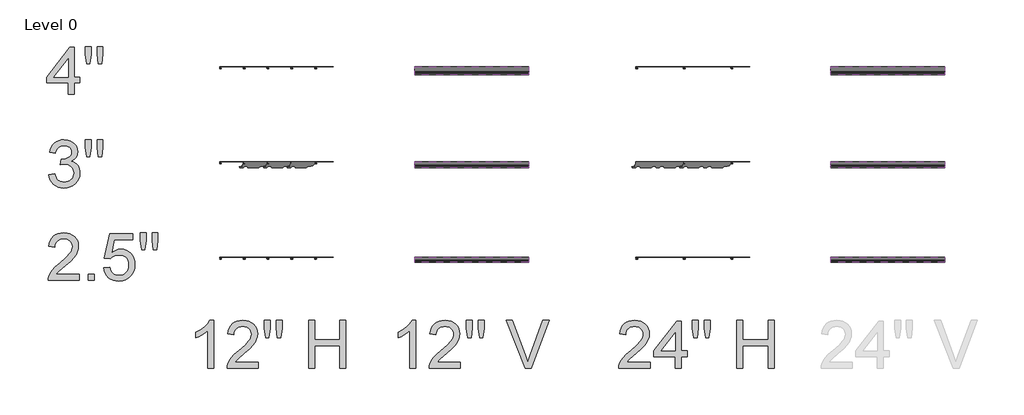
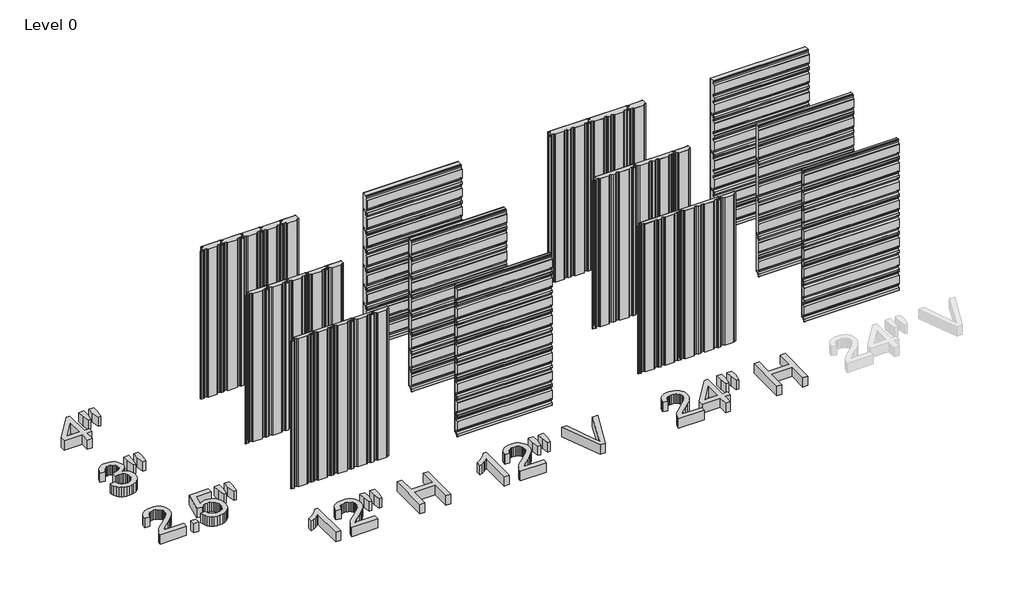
# One storey, part 1 of 3: 60 plates, 6 proxies.
"""IFC4 building model written with IfcOpenShell, lengths in millimetres."""

from ifc_helpers import new_model, si_unit, origin, origin_with_axes, place, context, project, spatial, polyline, outline, extrude, transform, mapped, element, save
from components import plate_6d7c6e6a, plate_768e84e4, plate_447e906d, plate_7d3e74aa, plate_3614d6f1, plate_1bb9bb0e, plate_06e6776e, plate_f417a01e, plate_84ef4001, plate_ea53c9ee, plate_51ea42c3, plate_45a50fa3, plate_872a44c1, plate_7790d1d9, plate_56a13f22, plate_ee4c8fe3, plate_3b90a758, plate_3c7ca039, plate_906cce98, plate_a2a39dc9, plate_817032a2

model = new_model("IFC4")

# Units and contexts
model_context = context("Model", 3, world=origin())
ifc_project = project(units=[si_unit("LENGTHUNIT", "METRE", prefix="MILLI")], contexts=[model_context])

# Site, building, storey
site = spatial("IfcSite", under=ifc_project)
building = spatial("IfcBuilding", under=site)
storey = spatial("IfcBuildingStorey", under=building, Name="Level 0", Elevation=0.0)

# Proxies
placement = place(None, origin())
element("IfcBuildingElementProxy", 1, Name="24\" Arial", ObjectType="24\" Arial", at=placement, inside=storey, context=model_context, shape_type="SweptSolid", body=[
    extrude(outline(polyline([(-32312.5108068, 10607.9692936), (-32312.5108068, 10531.8275201), (-32712.2551178, 10531.8275201), (-32710.5820807, 10558.633291), (-32704.0758257, 10584.3237038), (-32685.3006325, 10625.3502893), (-32657.8256469, 10665.149981), (-32618.0817231, 10706.8086027), (-32562.4997156, 10753.4119782), (-32480.3350088, 10826.3935707), (-32431.0361847, 10880.2653626), (-32416.657361, 10902.275094), (-32406.3867727, 10923.9873966), (-32400.2244197, 10945.4022704), (-32398.170302, 10966.5197154), (-32400.1082366, 10986.38703), (-32405.9220402, 11004.6463701), (-32415.6117129, 11021.2977357), (-32429.1772547, 11036.3411269), (-32445.8657989, 11048.8006053), (-32464.9244789, 11057.7002328), (-32486.3532947, 11063.0400093), (-32510.1522463, 11064.8199347), (-32535.2245649, 11063.0818352), (-32557.6479082, 11057.8675365), (-32577.4222763, 11049.1770386), (-32594.5476691, 11037.0103417), (-32608.401345, 11021.7764102), (-32618.3605626, 11003.8842088), (-32624.4253218, 10983.3337374), (-32626.5956226, 10960.1249962), (-32702.7373961, 10969.6427178), (-32696.1893151, 11008.9497931), (-32684.278221, 11043.2935251), (-32667.0041138, 11072.6739141), (-32644.3669935, 11097.0909598), (-32616.8873605, 11116.2844123), (-32585.0857153, 11129.9940212), (-32548.9620577, 11138.2197865), (-32508.5163878, 11140.9617083), (-32467.7082266, 11137.913063), (-32431.3893814, 11128.7671273), (-32399.5598522, 11113.5239012), (-32372.219639, 11092.1833846), (-32350.2610281, 11066.3256681), (-32334.5763061, 11037.5308421), (-32325.1654729, 11005.7989067), (-32322.0285285, 10971.1298619), (-32325.4117811, 10934.7134228), (-32335.561539, 10898.92902), (-32353.5745709, 10862.5311702), (-32380.5476454, 10824.2743905), (-32423.5446967, 10778.6004799), (-32489.6296589, 10719.9512379), (-32577.2224413, 10646.7093952), (-32611.575468, 10607.9692936), (-32312.5108068, 10607.9692936)])), origin_with_axes(), (0.0, 0.0, 1.0), 152.4),
    extrude(outline(polyline([(-32198.2981465, 10531.8275201), (-32198.2981465, 10607.9692936), (-32122.156373, 10607.9692936), (-32122.156373, 10531.8275201), (-32198.2981465, 10531.8275201)])), origin_with_axes(), (0.0, 0.0, 1.0), 152.4),
    extrude(outline(polyline([(-31998.425991, 10693.6287888), (-31922.2842175, 10703.1465105), (-31916.5958917, 10678.6690495), (-31908.3050638, 10657.4354214), (-31897.4117339, 10639.4456262), (-31883.915902, 10624.6996638), (-31867.845452, 10613.2161236), (-31849.2282678, 10605.0135949), (-31828.0643496, 10600.0920777), (-31804.3536972, 10598.4515719), (-31775.3543889, 10600.7334085), (-31749.7755119, 10607.5789183), (-31727.6170661, 10618.9881013), (-31708.8790515, 10634.9609575), (-31693.9797274, 10654.7074416), (-31683.3373531, 10677.4375084), (-31676.9519285, 10703.1511579), (-31674.8234536, 10731.84839), (-31676.817156, 10758.970179), (-31682.7982634, 10783.0805013), (-31692.7667756, 10804.179357), (-31706.7226927, 10822.2667461), (-31724.7124879, 10836.7756948), (-31746.7826346, 10847.1392297), (-31772.9331326, 10853.3573506), (-31803.163982, 10855.4300576), (-31840.1009215, 10852.1211621), (-31870.0111054, 10842.1944758), (-31893.8983562, 10826.9884283), (-31912.7664958, 10807.8414491), (-31988.9082694, 10817.3591708), (-31922.2842175, 11131.4439866), (-31627.2348451, 11131.4439866), (-31627.2348451, 11055.3022131), (-31860.7164553, 11055.3022131), (-31893.2849093, 10887.5523683), (-31866.4140758, 10906.8108833), (-31838.8926169, 10920.5669654), (-31810.7205325, 10928.8206147), (-31781.8978226, 10931.5718311), (-31744.8168161, 10928.1606945), (-31710.7565708, 10917.9272848), (-31679.7170869, 10900.8716018), (-31651.6983642, 10876.9936458), (-31628.5035649, 10847.7526766), (-31611.9358511, 10814.6079544), (-31601.9952228, 10777.5594791), (-31598.6816801, 10736.6072509), (-31601.6652628, 10697.1607559), (-31610.6160108, 10660.4654773), (-31625.5339242, 10626.5214152), (-31646.4190029, 10595.3285695), (-31678.0579918, 10563.3828572), (-31714.976342, 10540.5644912), (-31757.1740534, 10526.8734716), (-31804.651126, 10522.3097984), (-31843.9442593, 10525.2422605), (-31879.4358806, 10534.0396468), (-31911.1259901, 10548.7019574), (-31939.0145877, 10569.2291921), (-31962.2186816, 10594.5989395), (-31979.8552802, 10623.7887881), (-31991.9243833, 10656.7987379), (-31998.425991, 10693.6287888)])), origin_with_axes(), (0.0, 0.0, 1.0), 152.4),
    extrude(outline(polyline([(-31513.4683281, 10922.0541094), (-31532.0576283, 11039.6872009), (-31532.0576283, 11140.9617083), (-31455.9158547, 11140.9617083), (-31455.9158547, 11039.6872009), (-31472.5718677, 10922.0541094), (-31513.4683281, 10922.0541094)])), origin_with_axes(), (0.0, 0.0, 1.0), 152.4),
    extrude(outline(polyline([(-31361.6309242, 10922.0541094), (-31379.7740812, 11039.6872009), (-31379.7740812, 11140.9617083), (-31303.6323077, 11140.9617083), (-31303.6323077, 11039.6872009), (-31321.4780359, 10922.0541094), (-31361.6309242, 10922.0541094)])), origin_with_axes(), (0.0, 0.0, 1.0), 152.4),
])
element("IfcBuildingElementProxy", 2, Name="24\" Arial", ObjectType="24\" Arial", at=placement, inside=storey, context=model_context, shape_type="SweptSolid", body=[
    extrude(outline(polyline([(-32702.7373961, 11887.4287888), (-32626.5956226, 11896.9465105), (-32609.5492343, 11849.0976519), (-32598.0563995, 11831.0009682), (-32584.5838042, 11816.7894482), (-32568.8247249, 11806.0541273), (-32550.4724383, 11798.386041), (-32529.5269444, 11793.7851892), (-32505.988243, 11792.2515719), (-32478.4017216, 11794.3614575), (-32453.7894881, 11800.6911142), (-32432.1515427, 11811.2405421), (-32413.4878854, 11826.0097411), (-32398.4584362, 11843.8926478), (-32387.7231153, 11863.783199), (-32381.2819228, 11885.6813946), (-32379.1348586, 11909.5872347), (-32381.2633335, 11932.35448), (-32387.6487581, 11953.0676078), (-32398.2911325, 11971.7266178), (-32413.1904565, 11988.3315102), (-32431.3707921, 12001.9621145), (-32451.8562009, 12011.6982605), (-32474.6466829, 12017.5399481), (-32499.7422382, 12019.4871773), (-32523.7967926, 12017.4051757), (-32553.1307083, 12011.1591708), (-32544.6539874, 12087.3009443), (-32532.4594065, 12086.4086579), (-32486.8412638, 12091.8739122), (-32446.0563393, 12108.2696749), (-32429.2702012, 12120.6687381), (-32417.2801026, 12136.0049108), (-32410.0860434, 12154.2781929), (-32407.6880237, 12175.4885844), (-32409.4261233, 12192.7069236), (-32414.640422, 12208.3730564), (-32423.3309198, 12222.4869825), (-32435.4976168, 12235.0487021), (-32450.4062355, 12245.3611164), (-32467.3224987, 12252.7271266), (-32486.2464062, 12257.1467327), (-32507.1779582, 12258.6199347), (-32528.0537423, 12257.1327907), (-32547.107775, 12252.6713587), (-32564.3400563, 12245.2356386), (-32579.7505861, 12234.8256305), (-32592.9582839, 12221.4413344), (-32603.5820689, 12205.0827502), (-32611.6219413, 12185.7498781), (-32617.0779009, 12163.4427178), (-32693.2196744, 12172.9604395), (-32684.1945692, 12209.311816), (-32670.8009784, 12241.3318856), (-32653.0389021, 12269.0206482), (-32630.9083402, 12292.3781039), (-32605.1063916, 12310.9209308), (-32576.3301549, 12324.1658072), (-32544.5796302, 12332.112733), (-32509.8548175, 12334.7617083), (-32461.9873695, 12329.5381149), (-32418.0236746, 12313.8673349), (-32380.95661, 12289.1435656), (-32353.7790532, 12256.7610047), (-32337.1044509, 12219.4522793), (-32331.5462502, 12179.9500164), (-32336.8256114, 12143.1432021), (-32352.6636952, 12109.7568189), (-32378.8374298, 12081.3151897), (-32415.1237438, 12059.3426369), (-32389.749349, 12051.4050057), (-32367.4607781, 12040.0841219), (-32348.258031, 12025.3799854), (-32332.1411078, 12007.2925964), (-32319.3888479, 11986.2680979), (-32310.2800908, 11962.7526332), (-32304.8148365, 11936.7462022), (-32302.9930851, 11908.248805), (-32306.6365879, 11869.6202393), (-32317.5670964, 11834.0403187), (-32335.7846106, 11801.5090434), (-32361.2891305, 11772.0264134), (-32392.3611457, 11747.5628943), (-32427.2811461, 11730.0889522), (-32466.0491316, 11719.6045869), (-32508.6651022, 11716.1097984), (-32547.1821322, 11719.0933811), (-32582.2787309, 11728.0441291), (-32613.9548984, 11742.9620425), (-32642.2106347, 11763.8471213), (-32665.9026978, 11789.4724716), (-32683.8878457, 11818.6111996), (-32696.1660785, 11851.2633054), (-32702.7373961, 11887.4287888)])), origin_with_axes(), (0.0, 0.0, 1.0), 152.4),
    extrude(outline(polyline([(-32217.7797331, 12115.8541094), (-32236.3690333, 12233.4872009), (-32236.3690333, 12334.7617083), (-32160.2272598, 12334.7617083), (-32160.2272598, 12233.4872009), (-32176.8832727, 12115.8541094), (-32217.7797331, 12115.8541094)])), origin_with_axes(), (0.0, 0.0, 1.0), 152.4),
    extrude(outline(polyline([(-32065.9423293, 12115.8541094), (-32084.0854862, 12233.4872009), (-32084.0854862, 12334.7617083), (-32007.9437127, 12334.7617083), (-32007.9437127, 12233.4872009), (-32025.7894409, 12115.8541094), (-32065.9423293, 12115.8541094)])), origin_with_axes(), (0.0, 0.0, 1.0), 152.4),
])
element("IfcBuildingElementProxy", 3, Name="24\" Arial", ObjectType="24\" Arial", at=placement, inside=storey, context=model_context, shape_type="SweptSolid", body=[
    extrude(outline(polyline([(-32455.2766321, 12919.4275201), (-32455.2766321, 13062.1933455), (-32731.2905611, 13062.1933455), (-32731.2905611, 13138.335119), (-32436.2411888, 13519.0439866), (-32379.1348586, 13519.0439866), (-32379.1348586, 13138.335119), (-32302.9930851, 13138.335119), (-32302.9930851, 13062.1933455), (-32379.1348586, 13062.1933455), (-32379.1348586, 12919.4275201), (-32455.2766321, 12919.4275201)]), holes=[polyline([(-32455.2766321, 13138.335119), (-32455.2766321, 13373.601302), (-32637.6004883, 13138.335119), (-32455.2766321, 13138.335119)])]), origin_with_axes(), (0.0, 0.0, 1.0), 152.4),
    extrude(outline(polyline([(-32217.7797331, 13309.6541094), (-32236.3690333, 13427.2872009), (-32236.3690333, 13528.5617083), (-32160.2272598, 13528.5617083), (-32160.2272598, 13427.2872009), (-32176.8832727, 13309.6541094), (-32217.7797331, 13309.6541094)])), origin_with_axes(), (0.0, 0.0, 1.0), 152.4),
    extrude(outline(polyline([(-32065.9423293, 13309.6541094), (-32084.0854862, 13427.2872009), (-32084.0854862, 13528.5617083), (-32007.9437127, 13528.5617083), (-32007.9437127, 13427.2872009), (-32025.7894409, 13309.6541094), (-32065.9423293, 13309.6541094)])), origin_with_axes(), (0.0, 0.0, 1.0), 152.4),
])
element("IfcBuildingElementProxy", 4, Name="24\" Arial", ObjectType="24\" Arial", at=placement, inside=storey, context=model_context, shape_type="SweptSolid", body=[
    extrude(outline(polyline([(-30589.8489204, 9409.440542), (-30665.9906939, 9409.440542), (-30665.9906939, 9884.1369113), (-30697.7783972, 9858.4279091), (-30738.1171786, 9832.7560856), (-30780.4636044, 9810.3188003), (-30818.2742409, 9794.3134128), (-30818.2742409, 9866.2911831), (-30758.4724623, 9898.8224584), (-30706.6640827, 9937.5253814), (-30665.8233902, 9978.682092), (-30638.9246728, 10018.5747302), (-30589.8489204, 10018.5747302), (-30589.8489204, 9409.440542)])), origin_with_axes(), (0.0, 0.0, 1.0), 152.4),
    extrude(outline(polyline([(-30018.785619, 9485.5823155), (-30018.785619, 9409.440542), (-30418.52993, 9409.440542), (-30416.8568929, 9436.2463129), (-30410.3506379, 9461.9367257), (-30391.5754447, 9502.9633112), (-30364.100459, 9542.7630029), (-30324.3565353, 9584.4216246), (-30268.7745278, 9631.0250001), (-30186.609821, 9704.0065926), (-30137.3109969, 9757.8783845), (-30122.9321732, 9779.8881159), (-30112.6615849, 9801.6004185), (-30106.4992319, 9823.0152923), (-30104.4451142, 9844.1327373), (-30106.3830487, 9864.0000519), (-30112.1968524, 9882.259392), (-30121.8865251, 9898.9107576), (-30135.4520669, 9913.9541488), (-30152.1406111, 9926.4136272), (-30171.1992911, 9935.3132547), (-30192.6281069, 9940.6530311), (-30216.4270585, 9942.4329566), (-30241.4993771, 9940.6948571), (-30263.9227204, 9935.4805584), (-30283.6970885, 9926.7900605), (-30300.8224813, 9914.6233636), (-30314.6761572, 9899.3894321), (-30324.6353748, 9881.4972307), (-30330.700134, 9860.9467593), (-30332.8704348, 9837.7380181), (-30409.0122083, 9847.2557397), (-30402.4641273, 9886.562815), (-30390.5530332, 9920.906547), (-30373.278926, 9950.286936), (-30350.6418057, 9974.7039817), (-30323.1621727, 9993.8974342), (-30291.3605275, 10007.6070431), (-30255.2368699, 10015.8328084), (-30214.7912, 10018.5747302), (-30173.9830388, 10015.5260849), (-30137.6641936, 10006.3801492), (-30105.8346644, 9991.1369231), (-30078.4944512, 9969.7964065), (-30056.5358403, 9943.93869), (-30040.8511183, 9915.143864), (-30031.4402851, 9883.4119286), (-30028.3033407, 9848.7428838), (-30031.6865933, 9812.3264447), (-30041.8363512, 9776.5420419), (-30059.8493831, 9740.1441921), (-30086.8224576, 9701.8874124), (-30129.8195089, 9656.2135018), (-30195.9044711, 9597.5642598), (-30283.4972535, 9524.3224171), (-30317.8502802, 9485.5823155), (-30018.785619, 9485.5823155)])), origin_with_axes(), (0.0, 0.0, 1.0), 152.4),
    extrude(outline(polyline([(-29924.0545453, 9799.6671313), (-29942.6438455, 9917.3002228), (-29942.6438455, 10018.5747302), (-29866.502072, 10018.5747302), (-29866.502072, 9917.3002228), (-29883.1580849, 9799.6671313), (-29924.0545453, 9799.6671313)])), origin_with_axes(), (0.0, 0.0, 1.0), 152.4),
    extrude(outline(polyline([(-29772.2171415, 9799.6671313), (-29790.3602984, 9917.3002228), (-29790.3602984, 10018.5747302), (-29714.2185249, 10018.5747302), (-29714.2185249, 9917.3002228), (-29732.0642531, 9799.6671313), (-29772.2171415, 9799.6671313)])), origin_with_axes(), (0.0, 0.0, 1.0), 152.4),
    extrude(outline(polyline([(-29371.5805441, 9409.440542), (-29371.5805441, 10018.5747302), (-29295.4387706, 10018.5747302), (-29295.4387706, 9771.1139662), (-28971.8362331, 9771.1139662), (-28971.8362331, 10018.5747302), (-28895.6944596, 10018.5747302), (-28895.6944596, 9409.440542), (-28971.8362331, 9409.440542), (-28971.8362331, 9694.9721927), (-29295.4387706, 9694.9721927), (-29295.4387706, 9409.440542), (-29371.5805441, 9409.440542)])), origin_with_axes(), (0.0, 0.0, 1.0), 152.4),
])
element("IfcBuildingElementProxy", 5, Name="24\" Arial", ObjectType="24\" Arial", at=placement, inside=storey, context=model_context, shape_type="SweptSolid", body=[
    extrude(outline(polyline([(-27999.0489204, 9409.440542), (-28075.1906939, 9409.440542), (-28075.1906939, 9884.1369113), (-28106.9783972, 9858.4279091), (-28147.3171786, 9832.7560856), (-28189.6636044, 9810.3188003), (-28227.4742409, 9794.3134128), (-28227.4742409, 9866.2911831), (-28167.6724623, 9898.8224584), (-28115.8640827, 9937.5253814), (-28075.0233902, 9978.682092), (-28048.1246728, 10018.5747302), (-27999.0489204, 10018.5747302), (-27999.0489204, 9409.440542)])), origin_with_axes(), (0.0, 0.0, 1.0), 152.4),
    extrude(outline(polyline([(-27427.985619, 9485.5823155), (-27427.985619, 9409.440542), (-27827.72993, 9409.440542), (-27826.0568929, 9436.2463129), (-27819.5506379, 9461.9367257), (-27800.7754447, 9502.9633112), (-27773.300459, 9542.7630029), (-27733.5565353, 9584.4216246), (-27677.9745278, 9631.0250001), (-27595.809821, 9704.0065926), (-27546.5109969, 9757.8783845), (-27532.1321732, 9779.8881159), (-27521.8615849, 9801.6004185), (-27515.6992319, 9823.0152923), (-27513.6451142, 9844.1327373), (-27515.5830487, 9864.0000519), (-27521.3968524, 9882.259392), (-27531.0865251, 9898.9107576), (-27544.6520669, 9913.9541488), (-27561.3406111, 9926.4136272), (-27580.3992911, 9935.3132547), (-27601.8281069, 9940.6530311), (-27625.6270585, 9942.4329566), (-27650.6993771, 9940.6948571), (-27673.1227204, 9935.4805584), (-27692.8970885, 9926.7900605), (-27710.0224813, 9914.6233636), (-27723.8761572, 9899.3894321), (-27733.8353748, 9881.4972307), (-27739.900134, 9860.9467593), (-27742.0704348, 9837.7380181), (-27818.2122083, 9847.2557397), (-27811.6641273, 9886.562815), (-27799.7530332, 9920.906547), (-27782.478926, 9950.286936), (-27759.8418057, 9974.7039817), (-27732.3621727, 9993.8974342), (-27700.5605275, 10007.6070431), (-27664.4368699, 10015.8328084), (-27623.9912, 10018.5747302), (-27583.1830388, 10015.5260849), (-27546.8641936, 10006.3801492), (-27515.0346644, 9991.1369231), (-27487.6944512, 9969.7964065), (-27465.7358403, 9943.93869), (-27450.0511183, 9915.143864), (-27440.6402851, 9883.4119286), (-27437.5033407, 9848.7428838), (-27440.8865933, 9812.3264447), (-27451.0363512, 9776.5420419), (-27469.0493831, 9740.1441921), (-27496.0224576, 9701.8874124), (-27539.0195089, 9656.2135018), (-27605.1044711, 9597.5642598), (-27692.6972535, 9524.3224171), (-27727.0502802, 9485.5823155), (-27427.985619, 9485.5823155)])), origin_with_axes(), (0.0, 0.0, 1.0), 152.4),
    extrude(outline(polyline([(-27333.2545453, 9799.6671313), (-27351.8438455, 9917.3002228), (-27351.8438455, 10018.5747302), (-27275.702072, 10018.5747302), (-27275.702072, 9917.3002228), (-27292.3580849, 9799.6671313), (-27333.2545453, 9799.6671313)])), origin_with_axes(), (0.0, 0.0, 1.0), 152.4),
    extrude(outline(polyline([(-27181.4171415, 9799.6671313), (-27199.5602984, 9917.3002228), (-27199.5602984, 10018.5747302), (-27123.4185249, 10018.5747302), (-27123.4185249, 9917.3002228), (-27141.2642531, 9799.6671313), (-27181.4171415, 9799.6671313)])), origin_with_axes(), (0.0, 0.0, 1.0), 152.4),
    extrude(outline(polyline([(-26600.8361184, 9409.440542), (-26843.2405927, 10018.5747302), (-26761.7451007, 10018.5747302), (-26599.4976888, 9579.7185316), (-26566.6318061, 9480.8234547), (-26534.2120666, 9579.7185316), (-26371.5185114, 10018.5747302), (-26290.0230195, 10018.5747302), (-26522.1662001, 9409.440542), (-26600.8361184, 9409.440542)])), origin_with_axes(), (0.0, 0.0, 1.0), 152.4),
])
element("IfcBuildingElementProxy", 6, Name="24\" Arial", ObjectType="24\" Arial", at=placement, inside=storey, context=model_context, shape_type="SweptSolid", body=[
    extrude(outline(polyline([(-24998.7539818, 9485.5823155), (-24998.7539818, 9409.440542), (-25398.4982928, 9409.440542), (-25396.8252557, 9436.2463129), (-25390.3190007, 9461.9367257), (-25371.5438075, 9502.9633112), (-25344.0688218, 9542.7630029), (-25304.3248981, 9584.4216246), (-25248.7428905, 9631.0250001), (-25166.5781838, 9704.0065926), (-25117.2793597, 9757.8783845), (-25102.900536, 9779.8881159), (-25092.6299477, 9801.6004185), (-25086.4675947, 9823.0152923), (-25084.413477, 9844.1327373), (-25086.3514115, 9864.0000519), (-25092.1652152, 9882.259392), (-25101.8548879, 9898.9107576), (-25115.4204297, 9913.9541488), (-25132.1089739, 9926.4136272), (-25151.1676539, 9935.3132547), (-25172.5964697, 9940.6530311), (-25196.3954213, 9942.4329566), (-25221.4677399, 9940.6948571), (-25243.8910832, 9935.4805584), (-25263.6654513, 9926.7900605), (-25280.790844, 9914.6233636), (-25294.64452, 9899.3894321), (-25304.6037376, 9881.4972307), (-25310.6684968, 9860.9467593), (-25312.8387975, 9837.7380181), (-25388.9805711, 9847.2557397), (-25382.4324901, 9886.562815), (-25370.521396, 9920.906547), (-25353.2472888, 9950.286936), (-25330.6101685, 9974.7039817), (-25303.1305355, 9993.8974342), (-25271.3288903, 10007.6070431), (-25235.2052327, 10015.8328084), (-25194.7595628, 10018.5747302), (-25153.9514016, 10015.5260849), (-25117.6325564, 10006.3801492), (-25085.8030272, 9991.1369231), (-25058.462814, 9969.7964065), (-25036.5042031, 9943.93869), (-25020.8194811, 9915.143864), (-25011.4086479, 9883.4119286), (-25008.2717035, 9848.7428838), (-25011.6549561, 9812.3264447), (-25021.804714, 9776.5420419), (-25039.8177459, 9740.1441921), (-25066.7908204, 9701.8874124), (-25109.7878717, 9656.2135018), (-25175.8728339, 9597.5642598), (-25263.4656163, 9524.3224171), (-25297.818643, 9485.5823155), (-24998.7539818, 9485.5823155)])), origin_with_axes(), (0.0, 0.0, 1.0), 152.4),
    extrude(outline(polyline([(-24675.1514443, 9409.440542), (-24675.1514443, 9552.2063674), (-24951.1653733, 9552.2063674), (-24951.1653733, 9628.3481409), (-24656.116001, 10009.0570085), (-24599.0096708, 10009.0570085), (-24599.0096708, 9628.3481409), (-24522.8678973, 9628.3481409), (-24522.8678973, 9552.2063674), (-24599.0096708, 9552.2063674), (-24599.0096708, 9409.440542), (-24675.1514443, 9409.440542)]), holes=[polyline([(-24675.1514443, 9628.3481409), (-24675.1514443, 9863.6143239), (-24857.4753005, 9628.3481409), (-24675.1514443, 9628.3481409)])]), origin_with_axes(), (0.0, 0.0, 1.0), 152.4),
    extrude(outline(polyline([(-24437.6545453, 9799.6671313), (-24456.2438455, 9917.3002228), (-24456.2438455, 10018.5747302), (-24380.102072, 10018.5747302), (-24380.102072, 9917.3002228), (-24396.7580849, 9799.6671313), (-24437.6545453, 9799.6671313)])), origin_with_axes(), (0.0, 0.0, 1.0), 152.4),
    extrude(outline(polyline([(-24285.8171415, 9799.6671313), (-24303.9602984, 9917.3002228), (-24303.9602984, 10018.5747302), (-24227.8185249, 10018.5747302), (-24227.8185249, 9917.3002228), (-24245.6642531, 9799.6671313), (-24285.8171415, 9799.6671313)])), origin_with_axes(), (0.0, 0.0, 1.0), 152.4),
    extrude(outline(polyline([(-23885.1805441, 9409.440542), (-23885.1805441, 10018.5747302), (-23809.0387706, 10018.5747302), (-23809.0387706, 9771.1139662), (-23485.4362331, 9771.1139662), (-23485.4362331, 10018.5747302), (-23409.2944596, 10018.5747302), (-23409.2944596, 9409.440542), (-23485.4362331, 9409.440542), (-23485.4362331, 9694.9721927), (-23809.0387706, 9694.9721927), (-23809.0387706, 9409.440542), (-23885.1805441, 9409.440542)])), origin_with_axes(), (0.0, 0.0, 1.0), 152.4),
])

# Plates
plate_shape = plate_6d7c6e6a(model_context)
element("IfcPlate", 7, ObjectType="KIP-24-DWR-R19-CP-Hz-A : Hz 2.5\"", at=placement, inside=storey, context=model_context, shape_type="MappedRepresentation", body=[
    mapped(plate_shape, transform((-21950.9413836, 10831.0207172, 0.0), x_axis=(1.0, 0.0, 0.0), y_axis=(0.0, 1.0, 0.0), z_axis=(0.0, 0.0, 1.0))),
])
element("IfcPlate", 8, ObjectType="KIP-24-DWR-R19-CP-Hz-A : Hz 2.5\"", at=placement, inside=storey, context=model_context, shape_type="MappedRepresentation", body=[
    mapped(plate_shape, transform((-21950.9413836, 10831.0207172, 609.6), x_axis=(1.0, 0.0, 0.0), y_axis=(0.0, 1.0, 0.0), z_axis=(0.0, 0.0, 1.0))),
])
element("IfcPlate", 9, ObjectType="KIP-24-DWR-R19-CP-Hz-A : Hz 2.5\"", at=placement, inside=storey, context=model_context, shape_type="MappedRepresentation", body=[
    mapped(plate_shape, transform((-21950.9413836, 10831.0207172, 1219.2), x_axis=(1.0, 0.0, 0.0), y_axis=(0.0, 1.0, 0.0), z_axis=(0.0, 0.0, 1.0))),
])
plate_2_shape = plate_768e84e4(model_context)
element("IfcPlate", 10, ObjectType="KIP-24-DWR-R19-CP-Hz-A : Hz 2.5\"", at=placement, inside=storey, context=model_context, shape_type="MappedRepresentation", body=[
    mapped(plate_2_shape, transform((-21950.9413836, 10831.0207172, 1828.8), x_axis=(1.0, 0.0, 0.0), y_axis=(0.0, 1.0, 0.0), z_axis=(0.0, 0.0, 1.0))),
])
plate_3_shape = plate_447e906d(model_context)
element("IfcPlate", 11, ObjectType="KIP-12-DWR-R19-CP-Hz-A : Hz 2.5\"", at=placement, inside=storey, context=model_context, shape_type="MappedRepresentation", body=[
    mapped(plate_3_shape, transform((-27284.9413836, 10831.0207172, 0.0), x_axis=(1.0, 0.0, 0.0), y_axis=(0.0, 1.0, 0.0), z_axis=(0.0, 0.0, 1.0))),
])
element("IfcPlate", 12, ObjectType="KIP-12-DWR-R19-CP-Hz-A : Hz 2.5\"", at=placement, inside=storey, context=model_context, shape_type="MappedRepresentation", body=[
    mapped(plate_3_shape, transform((-27284.9413836, 10831.0207172, 304.8), x_axis=(1.0, 0.0, 0.0), y_axis=(0.0, 1.0, 0.0), z_axis=(0.0, 0.0, 1.0))),
])
element("IfcPlate", 13, ObjectType="KIP-12-DWR-R19-CP-Hz-A : Hz 2.5\"", at=placement, inside=storey, context=model_context, shape_type="MappedRepresentation", body=[
    mapped(plate_3_shape, transform((-27284.9413836, 10831.0207172, 609.6), x_axis=(1.0, 0.0, 0.0), y_axis=(0.0, 1.0, 0.0), z_axis=(0.0, 0.0, 1.0))),
])
element("IfcPlate", 14, ObjectType="KIP-12-DWR-R19-CP-Hz-A : Hz 2.5\"", at=placement, inside=storey, context=model_context, shape_type="MappedRepresentation", body=[
    mapped(plate_3_shape, transform((-27284.9413836, 10831.0207172, 914.4), x_axis=(1.0, 0.0, 0.0), y_axis=(0.0, 1.0, 0.0), z_axis=(0.0, 0.0, 1.0))),
])
element("IfcPlate", 15, ObjectType="KIP-12-DWR-R19-CP-Hz-A : Hz 2.5\"", at=placement, inside=storey, context=model_context, shape_type="MappedRepresentation", body=[
    mapped(plate_3_shape, transform((-27284.9413836, 10831.0207172, 1219.2), x_axis=(1.0, 0.0, 0.0), y_axis=(0.0, 1.0, 0.0), z_axis=(0.0, 0.0, 1.0))),
])
element("IfcPlate", 16, ObjectType="KIP-12-DWR-R19-CP-Hz-A : Hz 2.5\"", at=placement, inside=storey, context=model_context, shape_type="MappedRepresentation", body=[
    mapped(plate_3_shape, transform((-27284.9413836, 10831.0207172, 1524.0), x_axis=(1.0, 0.0, 0.0), y_axis=(0.0, 1.0, 0.0), z_axis=(0.0, 0.0, 1.0))),
])
element("IfcPlate", 17, ObjectType="KIP-12-DWR-R19-CP-Hz-A : Hz 2.5\"", at=placement, inside=storey, context=model_context, shape_type="MappedRepresentation", body=[
    mapped(plate_3_shape, transform((-27284.9413836, 10831.0207172, 1828.8), x_axis=(1.0, 0.0, 0.0), y_axis=(0.0, 1.0, 0.0), z_axis=(0.0, 0.0, 1.0))),
])
plate_4_shape = plate_7d3e74aa(model_context)
element("IfcPlate", 18, ObjectType="KIP-12-DWR-R19-CP-Hz-A : Hz 2.5\"", at=placement, inside=storey, context=model_context, shape_type="MappedRepresentation", body=[
    mapped(plate_4_shape, transform((-27284.9413836, 10831.0207172, 2133.6), x_axis=(1.0, 0.0, 0.0), y_axis=(0.0, 1.0, 0.0), z_axis=(0.0, 0.0, 1.0))),
])
plate_5_shape = plate_3614d6f1(model_context)
element("IfcPlate", 19, ObjectType="KIP-24-DWR-R19-CP-Hz-A : Hz 3\"", at=placement, inside=storey, context=model_context, shape_type="MappedRepresentation", body=[
    mapped(plate_5_shape, transform((-21950.9413836, 12050.2207172, 0.0), x_axis=(1.0, 0.0, 0.0), y_axis=(0.0, 1.0, 0.0), z_axis=(0.0, 0.0, 1.0))),
])
element("IfcPlate", 20, ObjectType="KIP-24-DWR-R19-CP-Hz-A : Hz 3\"", at=placement, inside=storey, context=model_context, shape_type="MappedRepresentation", body=[
    mapped(plate_5_shape, transform((-21950.9413836, 12050.2207172, 609.6), x_axis=(1.0, 0.0, 0.0), y_axis=(0.0, 1.0, 0.0), z_axis=(0.0, 0.0, 1.0))),
])
element("IfcPlate", 21, ObjectType="KIP-24-DWR-R19-CP-Hz-A : Hz 3\"", at=placement, inside=storey, context=model_context, shape_type="MappedRepresentation", body=[
    mapped(plate_5_shape, transform((-21950.9413836, 12050.2207172, 1219.2), x_axis=(1.0, 0.0, 0.0), y_axis=(0.0, 1.0, 0.0), z_axis=(0.0, 0.0, 1.0))),
])
plate_6_shape = plate_1bb9bb0e(model_context)
element("IfcPlate", 22, ObjectType="KIP-24-DWR-R19-CP-Hz-A : Hz 3\"", at=placement, inside=storey, context=model_context, shape_type="MappedRepresentation", body=[
    mapped(plate_6_shape, transform((-21950.9413836, 12050.2207172, 1828.8), x_axis=(1.0, 0.0, 0.0), y_axis=(0.0, 1.0, 0.0), z_axis=(0.0, 0.0, 1.0))),
])
plate_7_shape = plate_06e6776e(model_context)
element("IfcPlate", 23, ObjectType="KIP-12-DWR-R19-CP-Hz-A : Hz 3\"", at=placement, inside=storey, context=model_context, shape_type="MappedRepresentation", body=[
    mapped(plate_7_shape, transform((-27284.9413836, 12050.2207172, 0.0), x_axis=(1.0, 0.0, 0.0), y_axis=(0.0, 1.0, 0.0), z_axis=(0.0, 0.0, 1.0))),
])
element("IfcPlate", 24, ObjectType="KIP-12-DWR-R19-CP-Hz-A : Hz 3\"", at=placement, inside=storey, context=model_context, shape_type="MappedRepresentation", body=[
    mapped(plate_7_shape, transform((-27284.9413836, 12050.2207172, 304.8), x_axis=(1.0, 0.0, 0.0), y_axis=(0.0, 1.0, 0.0), z_axis=(0.0, 0.0, 1.0))),
])
element("IfcPlate", 25, ObjectType="KIP-12-DWR-R19-CP-Hz-A : Hz 3\"", at=placement, inside=storey, context=model_context, shape_type="MappedRepresentation", body=[
    mapped(plate_7_shape, transform((-27284.9413836, 12050.2207172, 609.6), x_axis=(1.0, 0.0, 0.0), y_axis=(0.0, 1.0, 0.0), z_axis=(0.0, 0.0, 1.0))),
])
element("IfcPlate", 26, ObjectType="KIP-12-DWR-R19-CP-Hz-A : Hz 3\"", at=placement, inside=storey, context=model_context, shape_type="MappedRepresentation", body=[
    mapped(plate_7_shape, transform((-27284.9413836, 12050.2207172, 914.4), x_axis=(1.0, 0.0, 0.0), y_axis=(0.0, 1.0, 0.0), z_axis=(0.0, 0.0, 1.0))),
])
element("IfcPlate", 27, ObjectType="KIP-12-DWR-R19-CP-Hz-A : Hz 3\"", at=placement, inside=storey, context=model_context, shape_type="MappedRepresentation", body=[
    mapped(plate_7_shape, transform((-27284.9413836, 12050.2207172, 1219.2), x_axis=(1.0, 0.0, 0.0), y_axis=(0.0, 1.0, 0.0), z_axis=(0.0, 0.0, 1.0))),
])
element("IfcPlate", 28, ObjectType="KIP-12-DWR-R19-CP-Hz-A : Hz 3\"", at=placement, inside=storey, context=model_context, shape_type="MappedRepresentation", body=[
    mapped(plate_7_shape, transform((-27284.9413836, 12050.2207172, 1524.0), x_axis=(1.0, 0.0, 0.0), y_axis=(0.0, 1.0, 0.0), z_axis=(0.0, 0.0, 1.0))),
])
element("IfcPlate", 29, ObjectType="KIP-12-DWR-R19-CP-Hz-A : Hz 3\"", at=placement, inside=storey, context=model_context, shape_type="MappedRepresentation", body=[
    mapped(plate_7_shape, transform((-27284.9413836, 12050.2207172, 1828.8), x_axis=(1.0, 0.0, 0.0), y_axis=(0.0, 1.0, 0.0), z_axis=(0.0, 0.0, 1.0))),
])
plate_8_shape = plate_f417a01e(model_context)
element("IfcPlate", 30, ObjectType="KIP-12-DWR-R19-CP-Hz-A : Hz 3\"", at=placement, inside=storey, context=model_context, shape_type="MappedRepresentation", body=[
    mapped(plate_8_shape, transform((-27284.9413836, 12050.2207172, 2133.6), x_axis=(1.0, 0.0, 0.0), y_axis=(0.0, 1.0, 0.0), z_axis=(0.0, 0.0, 1.0))),
])
plate_9_shape = plate_84ef4001(model_context)
element("IfcPlate", 31, ObjectType="KIP-24-DWR-R19-CP-Hz-A : Hz 4\"", at=placement, inside=storey, context=model_context, shape_type="MappedRepresentation", body=[
    mapped(plate_9_shape, transform((-21950.9413836, 13269.4207172, 0.0), x_axis=(1.0, 0.0, 0.0), y_axis=(0.0, 1.0, 0.0), z_axis=(0.0, 0.0, 1.0))),
])
element("IfcPlate", 32, ObjectType="KIP-24-DWR-R19-CP-Hz-A : Hz 4\"", at=placement, inside=storey, context=model_context, shape_type="MappedRepresentation", body=[
    mapped(plate_9_shape, transform((-21950.9413836, 13269.4207172, 609.6), x_axis=(1.0, 0.0, 0.0), y_axis=(0.0, 1.0, 0.0), z_axis=(0.0, 0.0, 1.0))),
])
element("IfcPlate", 33, ObjectType="KIP-24-DWR-R19-CP-Hz-A : Hz 4\"", at=placement, inside=storey, context=model_context, shape_type="MappedRepresentation", body=[
    mapped(plate_9_shape, transform((-21950.9413836, 13269.4207172, 1219.2), x_axis=(1.0, 0.0, 0.0), y_axis=(0.0, 1.0, 0.0), z_axis=(0.0, 0.0, 1.0))),
])
plate_10_shape = plate_ea53c9ee(model_context)
element("IfcPlate", 34, ObjectType="KIP-24-DWR-R19-CP-Hz-A : Hz 4\"", at=placement, inside=storey, context=model_context, shape_type="MappedRepresentation", body=[
    mapped(plate_10_shape, transform((-21950.9413836, 13269.4207172, 1828.8), x_axis=(1.0, 0.0, 0.0), y_axis=(0.0, 1.0, 0.0), z_axis=(0.0, 0.0, 1.0))),
])
plate_11_shape = plate_51ea42c3(model_context)
element("IfcPlate", 35, ObjectType="KIP-12-DWR-R19-CP-Hz-A : Hz 4\"", at=placement, inside=storey, context=model_context, shape_type="MappedRepresentation", body=[
    mapped(plate_11_shape, transform((-27284.9413836, 13269.4207172, 0.0), x_axis=(1.0, 0.0, 0.0), y_axis=(0.0, 1.0, 0.0), z_axis=(0.0, 0.0, 1.0))),
])
element("IfcPlate", 36, ObjectType="KIP-12-DWR-R19-CP-Hz-A : Hz 4\"", at=placement, inside=storey, context=model_context, shape_type="MappedRepresentation", body=[
    mapped(plate_11_shape, transform((-27284.9413836, 13269.4207172, 304.8), x_axis=(1.0, 0.0, 0.0), y_axis=(0.0, 1.0, 0.0), z_axis=(0.0, 0.0, 1.0))),
])
element("IfcPlate", 37, ObjectType="KIP-12-DWR-R19-CP-Hz-A : Hz 4\"", at=placement, inside=storey, context=model_context, shape_type="MappedRepresentation", body=[
    mapped(plate_11_shape, transform((-27284.9413836, 13269.4207172, 609.6), x_axis=(1.0, 0.0, 0.0), y_axis=(0.0, 1.0, 0.0), z_axis=(0.0, 0.0, 1.0))),
])
element("IfcPlate", 38, ObjectType="KIP-12-DWR-R19-CP-Hz-A : Hz 4\"", at=placement, inside=storey, context=model_context, shape_type="MappedRepresentation", body=[
    mapped(plate_11_shape, transform((-27284.9413836, 13269.4207172, 914.4), x_axis=(1.0, 0.0, 0.0), y_axis=(0.0, 1.0, 0.0), z_axis=(0.0, 0.0, 1.0))),
])
element("IfcPlate", 39, ObjectType="KIP-12-DWR-R19-CP-Hz-A : Hz 4\"", at=placement, inside=storey, context=model_context, shape_type="MappedRepresentation", body=[
    mapped(plate_11_shape, transform((-27284.9413836, 13269.4207172, 1219.2), x_axis=(1.0, 0.0, 0.0), y_axis=(0.0, 1.0, 0.0), z_axis=(0.0, 0.0, 1.0))),
])
element("IfcPlate", 40, ObjectType="KIP-12-DWR-R19-CP-Hz-A : Hz 4\"", at=placement, inside=storey, context=model_context, shape_type="MappedRepresentation", body=[
    mapped(plate_11_shape, transform((-27284.9413836, 13269.4207172, 1524.0), x_axis=(1.0, 0.0, 0.0), y_axis=(0.0, 1.0, 0.0), z_axis=(0.0, 0.0, 1.0))),
])
element("IfcPlate", 41, ObjectType="KIP-12-DWR-R19-CP-Hz-A : Hz 4\"", at=placement, inside=storey, context=model_context, shape_type="MappedRepresentation", body=[
    mapped(plate_11_shape, transform((-27284.9413836, 13269.4207172, 1828.8), x_axis=(1.0, 0.0, 0.0), y_axis=(0.0, 1.0, 0.0), z_axis=(0.0, 0.0, 1.0))),
])
plate_12_shape = plate_45a50fa3(model_context)
element("IfcPlate", 42, ObjectType="KIP-12-DWR-R19-CP-Hz-A : Hz 4\"", at=placement, inside=storey, context=model_context, shape_type="MappedRepresentation", body=[
    mapped(plate_12_shape, transform((-27284.9413836, 13269.4207172, 2133.6), x_axis=(1.0, 0.0, 0.0), y_axis=(0.0, 1.0, 0.0), z_axis=(0.0, 0.0, 1.0))),
])
plate_13_shape = plate_872a44c1(model_context)
element("IfcPlate", 43, ObjectType="KIP-24-DWR-R19-CP-Vt-A : Vt 2.5\"", at=placement, inside=storey, context=model_context, shape_type="MappedRepresentation", body=[
    mapped(plate_13_shape, transform((-24875.9250934, 10831.0207172, 0.0), x_axis=(1.0, 0.0, 0.0), y_axis=(0.0, 1.0, 0.0), z_axis=(0.0, 0.0, 1.0))),
])
element("IfcPlate", 44, ObjectType="KIP-24-DWR-R19-CP-Vt-A : Vt 2.5\"", at=placement, inside=storey, context=model_context, shape_type="MappedRepresentation", body=[
    mapped(plate_13_shape, transform((-24266.3250932, 10831.0207172, 0.0), x_axis=(1.0, 0.0, 0.0), y_axis=(0.0, 1.0, 0.0), z_axis=(0.0, 0.0, 1.0))),
])
plate_14_shape = plate_7790d1d9(model_context)
element("IfcPlate", 45, ObjectType="KIP-24-DWR-R19-CP-Vt-A : Vt 2.5\"", at=placement, inside=storey, context=model_context, shape_type="MappedRepresentation", body=[
    mapped(plate_14_shape, transform((-23841.1250934, 10831.0207172, 0.0), x_axis=(1.0, 0.0, 0.0), y_axis=(0.0, 1.0, 0.0), z_axis=(0.0, 0.0, 1.0))),
])
plate_15_shape = plate_56a13f22(model_context)
element("IfcPlate", 46, ObjectType="KIP-12-DWR-R19-CP-Vt-A : Vt 2.5\"", at=placement, inside=storey, context=model_context, shape_type="MappedRepresentation", body=[
    mapped(plate_15_shape, transform((-30362.3250934, 10831.0207172, 0.0), x_axis=(1.0, 0.0, 0.0), y_axis=(0.0, 1.0, 0.0), z_axis=(0.0, 0.0, 1.0))),
])
element("IfcPlate", 47, ObjectType="KIP-12-DWR-R19-CP-Vt-A : Vt 2.5\"", at=placement, inside=storey, context=model_context, shape_type="MappedRepresentation", body=[
    mapped(plate_15_shape, transform((-29447.9250932, 10831.0207172, 0.0), x_axis=(1.0, 0.0, 0.0), y_axis=(0.0, 1.0, 0.0), z_axis=(0.0, 0.0, 1.0))),
])
element("IfcPlate", 48, ObjectType="KIP-12-DWR-R19-CP-Vt-A : Vt 2.5\"", at=placement, inside=storey, context=model_context, shape_type="MappedRepresentation", body=[
    mapped(plate_15_shape, transform((-29752.7250932, 10831.0207172, 0.0), x_axis=(1.0, 0.0, 0.0), y_axis=(0.0, 1.0, 0.0), z_axis=(0.0, 0.0, 1.0))),
])
element("IfcPlate", 49, ObjectType="KIP-12-DWR-R19-CP-Vt-A : Vt 2.5\"", at=placement, inside=storey, context=model_context, shape_type="MappedRepresentation", body=[
    mapped(plate_15_shape, transform((-30057.5250932, 10831.0207172, 0.0), x_axis=(1.0, 0.0, 0.0), y_axis=(0.0, 1.0, 0.0), z_axis=(0.0, 0.0, 1.0))),
])
element("IfcPlate", 50, ObjectType="KIP-12-DWR-R19-CP-Vt-A : Vt 2.5\"", at=placement, inside=storey, context=model_context, shape_type="MappedRepresentation", body=[
    mapped(plate_14_shape, transform((-29175.1250934, 10831.0207172, 0.0), x_axis=(1.0, 0.0, 0.0), y_axis=(0.0, 1.0, 0.0), z_axis=(0.0, 0.0, 1.0))),
])
plate_16_shape = plate_ee4c8fe3(model_context)
element("IfcPlate", 51, ObjectType="KIP-24-DWR-R19-CP-Vt-A : Vt 3\"", at=placement, inside=storey, context=model_context, shape_type="MappedRepresentation", body=[
    mapped(plate_16_shape, transform((-24875.9250934, 12050.2207172, 0.0), x_axis=(1.0, 0.0, 0.0), y_axis=(0.0, 1.0, 0.0), z_axis=(0.0, 0.0, 1.0))),
])
element("IfcPlate", 52, ObjectType="KIP-24-DWR-R19-CP-Vt-A : Vt 3\"", at=placement, inside=storey, context=model_context, shape_type="MappedRepresentation", body=[
    mapped(plate_16_shape, transform((-24266.3250932, 12050.2207172, 0.0), x_axis=(1.0, 0.0, 0.0), y_axis=(0.0, 1.0, 0.0), z_axis=(0.0, 0.0, 1.0))),
])
plate_17_shape = plate_3b90a758(model_context)
element("IfcPlate", 53, ObjectType="KIP-24-DWR-R19-CP-Vt-A : Vt 3\"", at=placement, inside=storey, context=model_context, shape_type="MappedRepresentation", body=[
    mapped(plate_17_shape, transform((-23841.1250934, 12050.2207172, 0.0), x_axis=(1.0, 0.0, 0.0), y_axis=(0.0, 1.0, 0.0), z_axis=(0.0, 0.0, 1.0))),
])
plate_18_shape = plate_3c7ca039(model_context)
element("IfcPlate", 54, ObjectType="KIP-12-DWR-R19-CP-Vt-A : Vt 3\"", at=placement, inside=storey, context=model_context, shape_type="MappedRepresentation", body=[
    mapped(plate_18_shape, transform((-30362.3250934, 12050.2207172, 0.0), x_axis=(1.0, 0.0, 0.0), y_axis=(0.0, 1.0, 0.0), z_axis=(0.0, 0.0, 1.0))),
])
element("IfcPlate", 55, ObjectType="KIP-12-DWR-R19-CP-Vt-A : Vt 3\"", at=placement, inside=storey, context=model_context, shape_type="MappedRepresentation", body=[
    mapped(plate_18_shape, transform((-29447.9250932, 12050.2207172, 0.0), x_axis=(1.0, 0.0, 0.0), y_axis=(0.0, 1.0, 0.0), z_axis=(0.0, 0.0, 1.0))),
])
element("IfcPlate", 56, ObjectType="KIP-12-DWR-R19-CP-Vt-A : Vt 3\"", at=placement, inside=storey, context=model_context, shape_type="MappedRepresentation", body=[
    mapped(plate_18_shape, transform((-29752.7250932, 12050.2207172, 0.0), x_axis=(1.0, 0.0, 0.0), y_axis=(0.0, 1.0, 0.0), z_axis=(0.0, 0.0, 1.0))),
])
element("IfcPlate", 57, ObjectType="KIP-12-DWR-R19-CP-Vt-A : Vt 3\"", at=placement, inside=storey, context=model_context, shape_type="MappedRepresentation", body=[
    mapped(plate_18_shape, transform((-30057.5250932, 12050.2207172, 0.0), x_axis=(1.0, 0.0, 0.0), y_axis=(0.0, 1.0, 0.0), z_axis=(0.0, 0.0, 1.0))),
])
element("IfcPlate", 58, ObjectType="KIP-12-DWR-R19-CP-Vt-A : Vt 3\"", at=placement, inside=storey, context=model_context, shape_type="MappedRepresentation", body=[
    mapped(plate_17_shape, transform((-29175.1250934, 12050.2207172, 0.0), x_axis=(1.0, 0.0, 0.0), y_axis=(0.0, 1.0, 0.0), z_axis=(0.0, 0.0, 1.0))),
])
plate_19_shape = plate_906cce98(model_context)
element("IfcPlate", 59, ObjectType="KIP-24-DWR-R19-CP-Vt-A : Vt 4\"", at=placement, inside=storey, context=model_context, shape_type="MappedRepresentation", body=[
    mapped(plate_19_shape, transform((-24875.9250934, 13269.4207172, 0.0), x_axis=(1.0, 0.0, 0.0), y_axis=(0.0, 1.0, 0.0), z_axis=(0.0, 0.0, 1.0))),
])
element("IfcPlate", 60, ObjectType="KIP-24-DWR-R19-CP-Vt-A : Vt 4\"", at=placement, inside=storey, context=model_context, shape_type="MappedRepresentation", body=[
    mapped(plate_19_shape, transform((-24266.3250932, 13269.4207172, 0.0), x_axis=(1.0, 0.0, 0.0), y_axis=(0.0, 1.0, 0.0), z_axis=(0.0, 0.0, 1.0))),
])
plate_20_shape = plate_a2a39dc9(model_context)
element("IfcPlate", 61, ObjectType="KIP-24-DWR-R19-CP-Vt-A : Vt 4\"", at=placement, inside=storey, context=model_context, shape_type="MappedRepresentation", body=[
    mapped(plate_20_shape, transform((-23841.1250934, 13269.4207172, 0.0), x_axis=(1.0, 0.0, 0.0), y_axis=(0.0, 1.0, 0.0), z_axis=(0.0, 0.0, 1.0))),
])
plate_21_shape = plate_817032a2(model_context)
element("IfcPlate", 62, ObjectType="KIP-12-DWR-R19-CP-Vt-A : Vt 4\"", at=placement, inside=storey, context=model_context, shape_type="MappedRepresentation", body=[
    mapped(plate_21_shape, transform((-30362.3250934, 13269.4207172, 0.0), x_axis=(1.0, 0.0, 0.0), y_axis=(0.0, 1.0, 0.0), z_axis=(0.0, 0.0, 1.0))),
])
element("IfcPlate", 63, ObjectType="KIP-12-DWR-R19-CP-Vt-A : Vt 4\"", at=placement, inside=storey, context=model_context, shape_type="MappedRepresentation", body=[
    mapped(plate_21_shape, transform((-29447.9250932, 13269.4207172, 0.0), x_axis=(1.0, 0.0, 0.0), y_axis=(0.0, 1.0, 0.0), z_axis=(0.0, 0.0, 1.0))),
])
element("IfcPlate", 64, ObjectType="KIP-12-DWR-R19-CP-Vt-A : Vt 4\"", at=placement, inside=storey, context=model_context, shape_type="MappedRepresentation", body=[
    mapped(plate_21_shape, transform((-29752.7250932, 13269.4207172, 0.0), x_axis=(1.0, 0.0, 0.0), y_axis=(0.0, 1.0, 0.0), z_axis=(0.0, 0.0, 1.0))),
])
element("IfcPlate", 65, ObjectType="KIP-12-DWR-R19-CP-Vt-A : Vt 4\"", at=placement, inside=storey, context=model_context, shape_type="MappedRepresentation", body=[
    mapped(plate_21_shape, transform((-30057.5250932, 13269.4207172, 0.0), x_axis=(1.0, 0.0, 0.0), y_axis=(0.0, 1.0, 0.0), z_axis=(0.0, 0.0, 1.0))),
])
element("IfcPlate", 66, ObjectType="KIP-12-DWR-R19-CP-Vt-A : Vt 4\"", at=placement, inside=storey, context=model_context, shape_type="MappedRepresentation", body=[
    mapped(plate_20_shape, transform((-29175.1250934, 13269.4207172, 0.0), x_axis=(1.0, 0.0, 0.0), y_axis=(0.0, 1.0, 0.0), z_axis=(0.0, 0.0, 1.0))),
])

save(model, "model.ifc")
